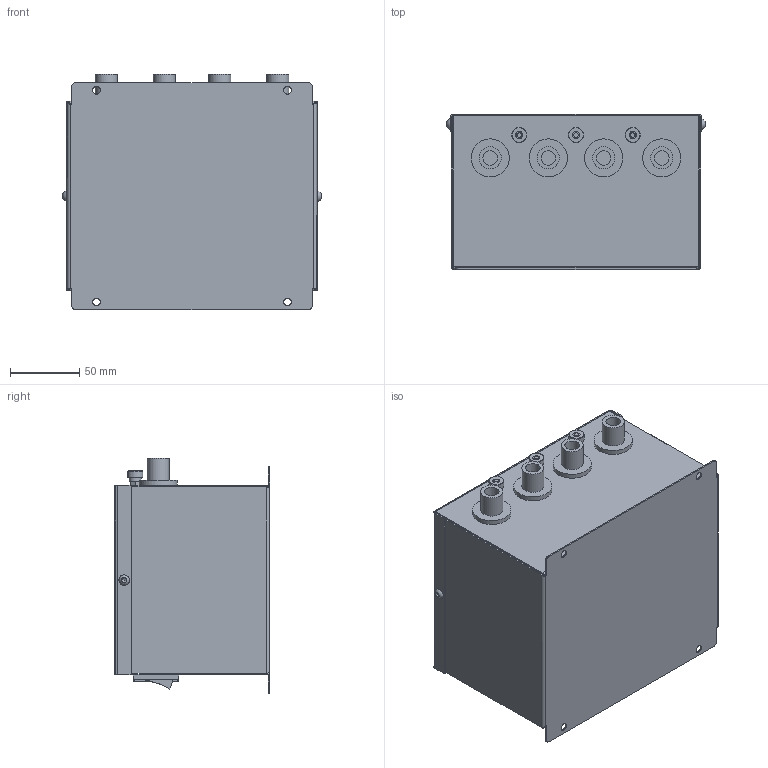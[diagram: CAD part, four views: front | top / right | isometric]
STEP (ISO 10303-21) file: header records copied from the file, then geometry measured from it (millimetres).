
FILE_DESCRIPTION (( 'STEP AP203' ), '1' );
FILE_NAME ('SR-SG56-4出.STEP', '2024-01-12T08:46:15', ( '微软用户' ), ( '微软中国' ), 'SwSTEP 2.0', 'SolidWorks 2021', '' );
FILE_SCHEMA (( 'CONFIG_CONTROL_DESIGN' ));
Length unit declared in the file: millimetre
Products named in the file (1): SR-SG56-4堤
Bounding box: 186.4 x 112 x 170 mm (x, y, z)
Volume: 147931.1 mm3; surface area: 265436.6 mm2
Topology: 11 solids, 11 shells, 224 faces, 472 edges, 297 vertices
Faces by surface type: plane 148, cylinder 60, bspline 8, cone 6, sphere 2
Full cylindrical faces by diameter (mm): 3.3 x7, 4 x2, 5.111 x3, 5.5 x4, 8.5 x3, 10.5 x4, 11 x3, 16 x4, 27.5 x4
Entity records: 6274 total; most frequent: CARTESIAN_POINT 1528, DIRECTION 953, ORIENTED_EDGE 846, EDGE_CURVE 423, AXIS2_PLACEMENT_3D 331, EDGE_LOOP 321, VECTOR 291, LINE 291
